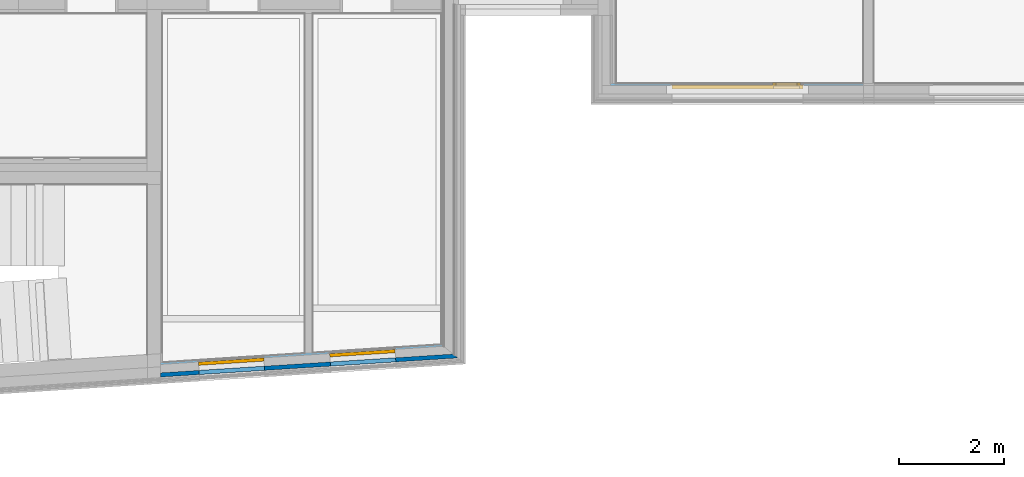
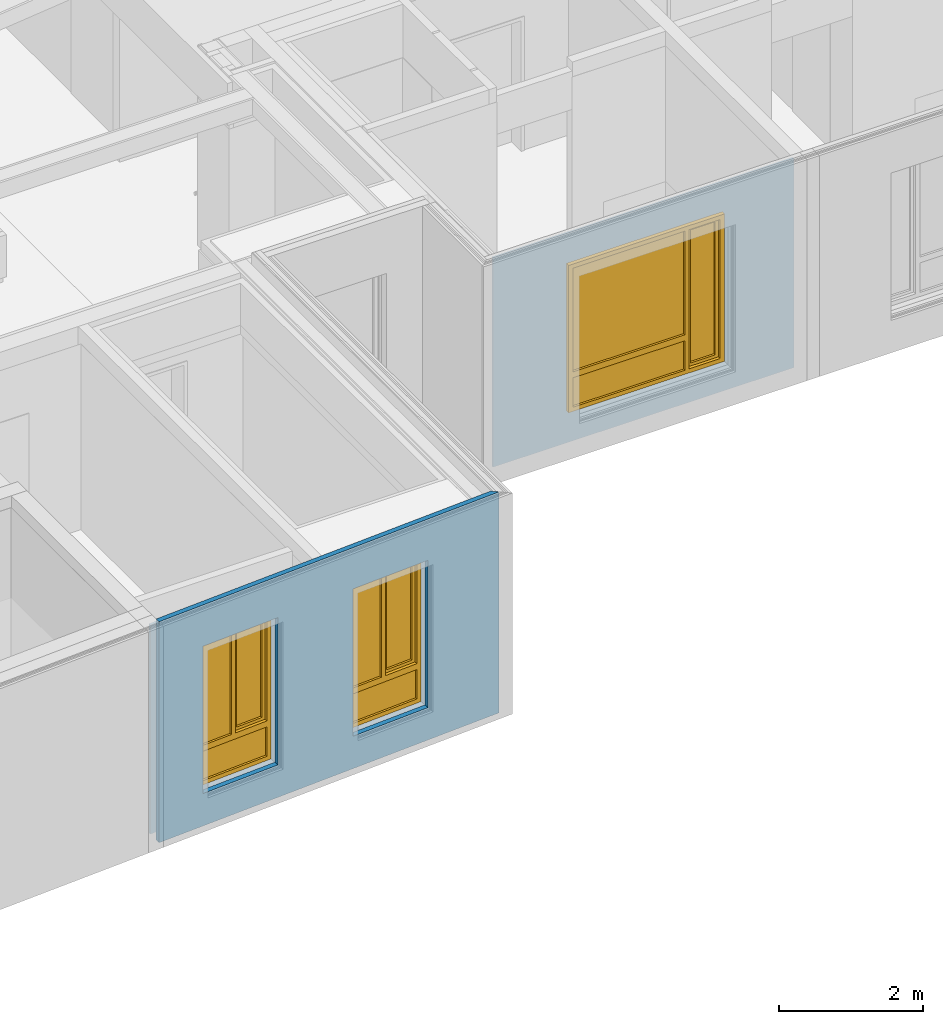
# One storey, part 111 of 222: 3 windows, 1 wall, 6 openings, plus 2 elements that do not belong to this part.
"""IFC4 building model written with IfcOpenShell, lengths in metres."""

from ifc_helpers import new_model, entity, si_unit, converted_unit, derived_unit, frame, frame_2d, origin, origin_with_axes, place, context, subcontext, project, spatial, polyline, rectangle, outline, extrude, closed_shell, open_shell, faceted_brep, surface_model, source, transform, mapped, material, element, fill, save


model = new_model("IFC4")

# Units and contexts
model_context = context("Model", 3, precision=1e-05, world=origin())
body_context = subcontext(model_context, "Body", "Model", "MODEL_VIEW")
ifc_project = project(units=[si_unit("LENGTHUNIT", "METRE"), si_unit("AREAUNIT", "SQUARE_METRE"), si_unit("VOLUMEUNIT", "CUBIC_METRE"), si_unit("MASSUNIT", "GRAM", prefix="KILO"), converted_unit("PLANEANGLEUNIT", "DEGREE", entity("IfcPlaneAngleMeasure", 0.0174532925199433), si_unit("PLANEANGLEUNIT", "RADIAN"), dimensions=[0, 0, 0, 0, 0, 0, 0]), derived_unit("THERMALTRANSMITTANCEUNIT", [(si_unit("POWERUNIT", "WATT"), 1), (si_unit("THERMODYNAMICTEMPERATUREUNIT", "KELVIN"), -1), (si_unit("LENGTHUNIT", "METRE"), -2)]), derived_unit("VOLUMETRICFLOWRATEUNIT", [(si_unit("LENGTHUNIT", "METRE"), 3), (converted_unit("TIMEUNIT", "hour", entity("IfcTimeMeasure", 3600.0), si_unit("TIMEUNIT", "SECOND"), dimensions=[0, 0, 1, 0, 0, 0, 0]), -1), (si_unit("LENGTHUNIT", "METRE"), -1)])], contexts=[model_context])

# Site, building, storey
site_placement = place(None, origin())
site = spatial("IfcSite", under=ifc_project, at=site_placement, Name="Psychiatrie Neubau Wunstorf", CompositionType="ELEMENT")
building_placement = place(site_placement, origin())
building = spatial("IfcBuilding", under=site, at=building_placement, Name="Neubau H2 Stationsgebäude", CompositionType="ELEMENT")
storey_placement = place(building_placement, frame((0.0, 0.0, 3.6)))
storey = spatial("IfcBuildingStorey", under=building, at=storey_placement, Name="H2 Ebene +1", CompositionType="ELEMENT", Elevation=3.6)

# Wall, openings, windows
ifc_material_1 = material(Name="WA-LB")
wall_1_placement = place(storey_placement, frame((67.8525026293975, -6.14011802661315, 0.0), z_axis=(0.0, 0.0, 1.0), x_axis=(-0.997944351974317, -0.0640864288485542, 0.0)))
wall_1 = element("IfcWall", 1, at=wall_1_placement, inside=storey, material=ifc_material_1, context=body_context, shape_type="SweptSolid", body=[
    extrude(outline(polyline([(-5.36604679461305, -0.0359999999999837), (-0.00231186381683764, -0.0359999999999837), (0.0, 0.0), (-5.34222362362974, 0.0), (-5.40524242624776, 4.54050609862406e-05), (-5.36604679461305, -0.0359999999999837)])), frame((5.36604679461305, 0.0359999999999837, 0.0), z_axis=(0.0, 0.0, 1.0), x_axis=(1.0, 0.0, 0.0)), (0.0, 0.0, 1.0), 3.55),
])
opening_1_placement = place(wall_1_placement, frame((2.13623932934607, 0.0359999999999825, 0.55), z_axis=(1.64214321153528e-13, -1.0, 0.0), x_axis=(0.0, 0.0, 1.0)))
opening_1 = element("IfcOpeningElement", 2, at=opening_1_placement, cuts=wall_1, Name="Fensteröffnung", ObjectType="Opening", context=body_context, shape_type="SweptSolid", body=[
    extrude(outline(polyline([(2.5, 1.25000000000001), (2.5, 0.0), (0.0, 0.0), (0.0, 1.25000000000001), (2.5, 1.25000000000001)])), origin_with_axes(), (0.0, 0.0, 1.0), 0.0359999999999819),
])
opening_2_placement = place(wall_1_placement, frame((4.64270007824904, 0.0359999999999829, 0.55), z_axis=(-5.05274834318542e-14, -1.0, 0.0), x_axis=(0.0, 0.0, 1.0)))
opening_2 = element("IfcOpeningElement", 3, at=opening_2_placement, cuts=wall_1, Name="Fensteröffnung", ObjectType="Opening", context=body_context, shape_type="SweptSolid", body=[
    extrude(outline(polyline([(2.5, 1.24999999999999), (2.5, 0.0), (0.0, 0.0), (0.0, 1.24999999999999), (2.5, 1.24999999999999)])), origin_with_axes(), (0.0, 0.0, 1.0), 0.0359999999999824),
])
shared_shape_1 = source(origin_with_axes(), body_context, "Body", "SurfaceModel", [
    surface_model("IfcShellBasedSurfaceModel", [(0.0, 0.0, 2.5), (0.0699999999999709, 0.0, 2.5), (0.0699999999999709, 0.0, 0.0), (0.0, 0.0, 0.0), (0.0, 0.0699999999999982, 0.0), (0.0699999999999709, 0.0700000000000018, 0.0), (0.0699999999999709, 0.0700000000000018, 2.5), (0.0, 0.0699999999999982, 2.5)], [closed_shell([[[0, 1, 2, 3]], [[4, 5, 6, 7]], [[3, 4, 7, 0]], [[2, 5, 4, 3]], [[1, 6, 5, 2]], [[0, 7, 6, 1]]], orient=[[False], [False], [False], [False], [False], [False]])]),
    surface_model("IfcShellBasedSurfaceModel", [(1.17999999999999, 0.0, 2.5), (1.24999999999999, 0.0, 2.5), (1.24999999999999, 0.0, 0.0), (1.17999999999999, 0.0, 0.0), (1.17999999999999, 0.0700000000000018, 0.0), (1.24999999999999, 0.0699999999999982, 0.0), (1.24999999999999, 0.0699999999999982, 2.5), (1.17999999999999, 0.0700000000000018, 2.5)], [closed_shell([[[0, 1, 2, 3]], [[4, 5, 6, 7]], [[3, 4, 7, 0]], [[2, 5, 4, 3]], [[1, 6, 5, 2]], [[0, 7, 6, 1]]], orient=[[False], [False], [False], [False], [False], [False]])]),
    surface_model("IfcShellBasedSurfaceModel", [(0.0699999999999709, 0.0, 0.07), (1.17999999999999, 0.0, 0.07), (1.17999999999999, 0.0, 0.0), (0.0699999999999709, 0.0, 0.0), (0.0699999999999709, 0.0700000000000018, 0.0), (1.17999999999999, 0.0700000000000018, 0.0), (1.17999999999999, 0.0700000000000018, 0.07), (0.0699999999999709, 0.0700000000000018, 0.07)], [closed_shell([[[0, 1, 2, 3]], [[4, 5, 6, 7]], [[3, 4, 7, 0]], [[2, 5, 4, 3]], [[1, 6, 5, 2]], [[0, 7, 6, 1]]], orient=[[False], [False], [False], [False], [False], [False]])]),
    surface_model("IfcShellBasedSurfaceModel", [(0.0699999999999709, 0.0, 2.5), (1.17999999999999, 0.0, 2.5), (1.17999999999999, 0.0, 2.43), (0.0699999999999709, 0.0, 2.43), (0.0699999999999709, 0.0700000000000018, 2.43), (1.17999999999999, 0.0700000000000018, 2.43), (1.17999999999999, 0.0700000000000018, 2.5), (0.0699999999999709, 0.0700000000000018, 2.5)], [closed_shell([[[0, 1, 2, 3]], [[4, 5, 6, 7]], [[3, 4, 7, 0]], [[2, 5, 4, 3]], [[1, 6, 5, 2]], [[0, 7, 6, 1]]], orient=[[False], [False], [False], [False], [False], [False]])]),
    surface_model("IfcShellBasedSurfaceModel", [(0.0699999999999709, 0.0, 0.67), (1.17999999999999, 0.0, 0.67), (1.17999999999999, 0.0, 0.57), (0.0699999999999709, 0.0, 0.57), (0.0699999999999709, 0.0700000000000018, 0.57), (1.17999999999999, 0.0700000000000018, 0.57), (1.17999999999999, 0.0700000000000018, 0.67), (0.0699999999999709, 0.0700000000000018, 0.67)], [closed_shell([[[0, 1, 2, 3]], [[4, 5, 6, 7]], [[3, 4, 7, 0]], [[2, 5, 4, 3]], [[1, 6, 5, 2]], [[0, 7, 6, 1]]], orient=[[False], [False], [False], [False], [False], [False]])]),
    surface_model("IfcShellBasedSurfaceModel", [(0.0699999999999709, 0.0350000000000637, 0.07), (0.0699999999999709, 0.0350000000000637, 0.57), (1.17999999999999, 0.0350000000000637, 0.57), (1.17999999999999, 0.0350000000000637, 0.07)], [open_shell([[[0, 1, 2, 3]]], orient=[[False]])]),
    surface_model("IfcShellBasedSurfaceModel", [(0.59, 0.0, 2.43), (0.659999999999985, 0.0, 2.43), (0.659999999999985, 0.0, 0.67), (0.59, 0.0, 0.67), (0.59, 0.07, 0.67), (0.659999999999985, 0.07, 0.67), (0.659999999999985, 0.07, 2.43), (0.59, 0.0699999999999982, 2.43)], [closed_shell([[[0, 1, 2, 3]], [[4, 5, 6, 7]], [[3, 4, 7, 0]], [[2, 5, 4, 3]], [[1, 6, 5, 2]], [[0, 7, 6, 1]]], orient=[[False], [False], [False], [False], [False], [False]])]),
    surface_model("IfcShellBasedSurfaceModel", [(0.0499999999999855, -0.0499999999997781, 2.45), (0.119999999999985, -0.0499999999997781, 2.45), (0.119999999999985, -0.0499999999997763, 0.65), (0.0499999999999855, -0.0499999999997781, 0.65), (0.0499999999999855, 0.0200000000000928, 0.65), (0.119999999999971, 0.0200000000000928, 0.65), (0.119999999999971, 0.0200000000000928, 2.45), (0.0499999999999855, 0.0200000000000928, 2.45)], [closed_shell([[[0, 1, 2, 3]], [[4, 5, 6, 7]], [[3, 4, 7, 0]], [[2, 5, 4, 3]], [[1, 6, 5, 2]], [[0, 7, 6, 1]]], orient=[[False], [False], [False], [False], [False], [False]])]),
    surface_model("IfcShellBasedSurfaceModel", [(0.539999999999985, -0.0499999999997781, 2.45), (0.609999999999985, -0.0499999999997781, 2.45), (0.609999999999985, -0.0499999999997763, 0.65), (0.539999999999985, -0.0499999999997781, 0.65), (0.539999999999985, 0.0200000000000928, 0.65), (0.609999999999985, 0.0200000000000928, 0.65), (0.609999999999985, 0.0200000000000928, 2.45), (0.539999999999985, 0.0200000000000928, 2.45)], [closed_shell([[[0, 1, 2, 3]], [[4, 5, 6, 7]], [[3, 4, 7, 0]], [[2, 5, 4, 3]], [[1, 6, 5, 2]], [[0, 7, 6, 1]]], orient=[[False], [False], [False], [False], [False], [False]])]),
    surface_model("IfcShellBasedSurfaceModel", [(0.119999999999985, -0.0499999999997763, 0.72), (0.539999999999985, -0.0499999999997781, 0.72), (0.539999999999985, -0.0499999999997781, 0.65), (0.119999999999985, -0.0499999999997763, 0.65), (0.119999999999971, 0.0200000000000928, 0.65), (0.539999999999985, 0.0200000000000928, 0.65), (0.539999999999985, 0.0200000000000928, 0.72), (0.119999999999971, 0.0200000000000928, 0.72)], [closed_shell([[[0, 1, 2, 3]], [[4, 5, 6, 7]], [[3, 4, 7, 0]], [[2, 5, 4, 3]], [[1, 6, 5, 2]], [[0, 7, 6, 1]]], orient=[[False], [False], [False], [False], [False], [False]])]),
    surface_model("IfcShellBasedSurfaceModel", [(0.119999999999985, -0.0499999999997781, 2.45), (0.539999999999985, -0.0499999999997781, 2.45), (0.539999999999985, -0.0499999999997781, 2.38), (0.119999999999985, -0.0499999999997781, 2.38), (0.119999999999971, 0.0200000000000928, 2.38), (0.539999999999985, 0.0200000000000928, 2.38), (0.539999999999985, 0.0200000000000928, 2.45), (0.119999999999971, 0.0200000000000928, 2.45)], [closed_shell([[[0, 1, 2, 3]], [[4, 5, 6, 7]], [[3, 4, 7, 0]], [[2, 5, 4, 3]], [[1, 6, 5, 2]], [[0, 7, 6, 1]]], orient=[[False], [False], [False], [False], [False], [False]])]),
    surface_model("IfcShellBasedSurfaceModel", [(0.659999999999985, 0.0350000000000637, 0.67), (0.659999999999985, 0.0350000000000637, 2.43), (1.17999999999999, 0.0350000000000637, 2.43), (1.17999999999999, 0.0350000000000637, 0.67)], [open_shell([[[0, 1, 2, 3]]], orient=[[False]])]),
    surface_model("IfcShellBasedSurfaceModel", [(0.119999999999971, -0.0149999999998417, 0.72), (0.119999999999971, -0.0149999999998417, 2.38), (0.539999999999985, -0.0149999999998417, 2.38), (0.539999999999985, -0.0149999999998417, 0.72)], [open_shell([[[0, 1, 2, 3]]], orient=[[False]])]),
])
window_1_placement = place(opening_1_placement, frame((0.0, 1.25, 0.00599999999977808), z_axis=(1.0, 0.0, 0.0), x_axis=(0.0, -1.0, 1.66214264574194e-13)))
window_1 = element("IfcWindow", 4, at=window_1_placement, inside=storey, Name="Fenster", OverallHeight=2.5, OverallWidth=1.25, PartitioningType="USERDEFINED", PredefinedType="WINDOW", context=body_context, shape_type="MappedRepresentation", body=[
    mapped(shared_shape_1, transform((0.0, 0.0, 0.0), x_axis=(1.0, 0.0, 0.0), y_axis=(0.0, 1.0, 0.0), z_axis=(0.0, 0.0, 1.0), scale=1.0)),
])
fill(opening_1, window_1)
shared_shape_2 = source(origin_with_axes(), body_context, "Body", "SurfaceModel", [
    surface_model("IfcShellBasedSurfaceModel", [(0.0, 0.0, 2.5), (0.0699999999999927, 0.0, 2.5), (0.0699999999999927, 0.0, 0.0), (0.0, 0.0, 0.0), (0.0, 0.0700000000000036, 0.0), (0.0699999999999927, 0.0700000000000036, 0.0), (0.0699999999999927, 0.0700000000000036, 2.5), (0.0, 0.0700000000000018, 2.5)], [closed_shell([[[0, 1, 2, 3]], [[4, 5, 6, 7]], [[3, 4, 7, 0]], [[2, 5, 4, 3]], [[1, 6, 5, 2]], [[0, 7, 6, 1]]], orient=[[False], [False], [False], [False], [False], [False]])]),
    surface_model("IfcShellBasedSurfaceModel", [(1.17999999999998, 0.0, 2.5), (1.24999999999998, 0.0, 2.5), (1.24999999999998, 0.0, 0.0), (1.17999999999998, 0.0, 0.0), (1.17999999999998, 0.0700000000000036, 0.0), (1.24999999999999, 0.0700000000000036, 0.0), (1.24999999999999, 0.0700000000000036, 2.5), (1.17999999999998, 0.0700000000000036, 2.5)], [closed_shell([[[0, 1, 2, 3]], [[4, 5, 6, 7]], [[3, 4, 7, 0]], [[2, 5, 4, 3]], [[1, 6, 5, 2]], [[0, 7, 6, 1]]], orient=[[False], [False], [False], [False], [False], [False]])]),
    surface_model("IfcShellBasedSurfaceModel", [(0.0699999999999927, 0.0, 0.07), (1.17999999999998, 0.0, 0.07), (1.17999999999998, 0.0, 0.0), (0.0699999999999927, 0.0, 0.0), (0.0699999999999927, 0.0700000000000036, 0.0), (1.17999999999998, 0.0700000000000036, 0.0), (1.17999999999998, 0.0700000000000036, 0.07), (0.0699999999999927, 0.0700000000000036, 0.07)], [closed_shell([[[0, 1, 2, 3]], [[4, 5, 6, 7]], [[3, 4, 7, 0]], [[2, 5, 4, 3]], [[1, 6, 5, 2]], [[0, 7, 6, 1]]], orient=[[False], [False], [False], [False], [False], [False]])]),
    surface_model("IfcShellBasedSurfaceModel", [(0.0699999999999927, 0.0, 2.5), (1.17999999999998, 0.0, 2.5), (1.17999999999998, 0.0, 2.43), (0.0699999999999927, 0.0, 2.43), (0.0699999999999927, 0.0700000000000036, 2.43), (1.17999999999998, 0.0700000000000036, 2.43), (1.17999999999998, 0.0700000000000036, 2.5), (0.0699999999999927, 0.0700000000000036, 2.5)], [closed_shell([[[0, 1, 2, 3]], [[4, 5, 6, 7]], [[3, 4, 7, 0]], [[2, 5, 4, 3]], [[1, 6, 5, 2]], [[0, 7, 6, 1]]], orient=[[False], [False], [False], [False], [False], [False]])]),
    surface_model("IfcShellBasedSurfaceModel", [(0.0699999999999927, 0.0, 0.67), (1.17999999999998, 0.0, 0.67), (1.17999999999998, 0.0, 0.57), (0.0699999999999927, 0.0, 0.57), (0.0699999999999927, 0.0700000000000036, 0.57), (1.17999999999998, 0.0700000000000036, 0.57), (1.17999999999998, 0.0700000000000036, 0.67), (0.0699999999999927, 0.0700000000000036, 0.67)], [closed_shell([[[0, 1, 2, 3]], [[4, 5, 6, 7]], [[3, 4, 7, 0]], [[2, 5, 4, 3]], [[1, 6, 5, 2]], [[0, 7, 6, 1]]], orient=[[False], [False], [False], [False], [False], [False]])]),
    surface_model("IfcShellBasedSurfaceModel", [(0.0699999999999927, 0.0350000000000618, 0.07), (0.0699999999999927, 0.0350000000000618, 0.57), (1.17999999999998, 0.0350000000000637, 0.57), (1.17999999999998, 0.0350000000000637, 0.07)], [open_shell([[[0, 1, 2, 3]]], orient=[[False]])]),
    surface_model("IfcShellBasedSurfaceModel", [(0.589999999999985, 0.0, 2.43), (0.659999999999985, 0.0, 2.43), (0.659999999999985, 0.0, 0.67), (0.589999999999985, 0.0, 0.67), (0.589999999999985, 0.0700000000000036, 0.67), (0.659999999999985, 0.0700000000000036, 0.67), (0.659999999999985, 0.0700000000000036, 2.43), (0.589999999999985, 0.0700000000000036, 2.43)], [closed_shell([[[0, 1, 2, 3]], [[4, 5, 6, 7]], [[3, 4, 7, 0]], [[2, 5, 4, 3]], [[1, 6, 5, 2]], [[0, 7, 6, 1]]], orient=[[False], [False], [False], [False], [False], [False]])]),
    surface_model("IfcShellBasedSurfaceModel", [(0.0499999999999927, -0.0499999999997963, 2.45), (0.119999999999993, -0.0499999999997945, 2.45), (0.119999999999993, -0.0499999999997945, 0.65), (0.0499999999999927, -0.0499999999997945, 0.65), (0.0499999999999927, 0.0200000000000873, 0.65), (0.119999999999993, 0.0200000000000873, 0.65), (0.119999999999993, 0.0200000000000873, 2.45), (0.0499999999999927, 0.0200000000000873, 2.45)], [closed_shell([[[0, 1, 2, 3]], [[4, 5, 6, 7]], [[3, 4, 7, 0]], [[2, 5, 4, 3]], [[1, 6, 5, 2]], [[0, 7, 6, 1]]], orient=[[False], [False], [False], [False], [False], [False]])]),
    surface_model("IfcShellBasedSurfaceModel", [(0.539999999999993, -0.0499999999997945, 2.45), (0.609999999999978, -0.0499999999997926, 2.45), (0.609999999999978, -0.0499999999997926, 0.65), (0.539999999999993, -0.0499999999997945, 0.65), (0.539999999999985, 0.0200000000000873, 0.65), (0.609999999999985, 0.0200000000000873, 0.65), (0.609999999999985, 0.0200000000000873, 2.45), (0.539999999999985, 0.0200000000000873, 2.45)], [closed_shell([[[0, 1, 2, 3]], [[4, 5, 6, 7]], [[3, 4, 7, 0]], [[2, 5, 4, 3]], [[1, 6, 5, 2]], [[0, 7, 6, 1]]], orient=[[False], [False], [False], [False], [False], [False]])]),
    surface_model("IfcShellBasedSurfaceModel", [(0.119999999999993, -0.0499999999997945, 0.72), (0.539999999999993, -0.0499999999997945, 0.72), (0.539999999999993, -0.0499999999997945, 0.65), (0.119999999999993, -0.0499999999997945, 0.65), (0.119999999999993, 0.0200000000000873, 0.65), (0.539999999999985, 0.0200000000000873, 0.65), (0.539999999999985, 0.0200000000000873, 0.72), (0.119999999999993, 0.0200000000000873, 0.72)], [closed_shell([[[0, 1, 2, 3]], [[4, 5, 6, 7]], [[3, 4, 7, 0]], [[2, 5, 4, 3]], [[1, 6, 5, 2]], [[0, 7, 6, 1]]], orient=[[False], [False], [False], [False], [False], [False]])]),
    surface_model("IfcShellBasedSurfaceModel", [(0.119999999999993, -0.0499999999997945, 2.45), (0.539999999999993, -0.0499999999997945, 2.45), (0.539999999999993, -0.0499999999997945, 2.38), (0.119999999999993, -0.0499999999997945, 2.38), (0.119999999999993, 0.0200000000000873, 2.38), (0.539999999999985, 0.0200000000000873, 2.38), (0.539999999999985, 0.0200000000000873, 2.45), (0.119999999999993, 0.0200000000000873, 2.45)], [closed_shell([[[0, 1, 2, 3]], [[4, 5, 6, 7]], [[3, 4, 7, 0]], [[2, 5, 4, 3]], [[1, 6, 5, 2]], [[0, 7, 6, 1]]], orient=[[False], [False], [False], [False], [False], [False]])]),
    surface_model("IfcShellBasedSurfaceModel", [(0.659999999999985, 0.0350000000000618, 0.67), (0.659999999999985, 0.0350000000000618, 2.43), (1.17999999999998, 0.0350000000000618, 2.43), (1.17999999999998, 0.0350000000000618, 0.67)], [open_shell([[[0, 1, 2, 3]]], orient=[[False]])]),
    surface_model("IfcShellBasedSurfaceModel", [(0.119999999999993, -0.0149999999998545, 0.72), (0.119999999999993, -0.0149999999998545, 2.38), (0.539999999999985, -0.0149999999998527, 2.38), (0.539999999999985, -0.0149999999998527, 0.72)], [open_shell([[[0, 1, 2, 3]]], orient=[[False]])]),
])
window_2_placement = place(opening_2_placement, frame((0.0, 1.24999999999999, 0.00600000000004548), z_axis=(1.0, 0.0, 0.0), x_axis=(0.0, -1.0, -4.88914464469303e-14)))
window_2 = element("IfcWindow", 5, at=window_2_placement, inside=storey, Name="Fenster", OverallHeight=2.5, OverallWidth=1.25, PartitioningType="USERDEFINED", PredefinedType="WINDOW", context=body_context, shape_type="MappedRepresentation", body=[
    mapped(shared_shape_2, transform((0.0, 0.0, 0.0), x_axis=(1.0, 0.0, 0.0), y_axis=(0.0, 1.0, 0.0), z_axis=(0.0, 0.0, 1.0), scale=1.0)),
])
fill(opening_2, window_2)

# Wall, openings
ifc_material_2 = material(Name="WA-DL")
wall_2_placement = place(storey_placement, frame((62.499793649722, -6.76042917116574, 0.0)))
wall_2 = element("IfcWall", 6, at=wall_2_placement, inside=storey, material=ifc_material_2, context=body_context, shape_type="Brep", body=[
    faceted_brep([(0.732113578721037, 0.127180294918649, 0.55), (1.97954398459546, 0.207288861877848, 0.55), (1.98467089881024, 0.127453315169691, 0.55), (0.737240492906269, 0.0473447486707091, 0.55), (0.737240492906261, 0.0473447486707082, 3.05), (1.98467089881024, 0.127453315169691, 3.05), (1.97954398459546, 0.207288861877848, 3.05), (0.732113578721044, 0.127180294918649, 3.05), (3.23342185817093, 0.287811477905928, 0.55), (4.48085226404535, 0.367920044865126, 0.55), (4.48597917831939, 0.288084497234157, 0.55), (3.23854877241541, 0.207975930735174, 0.55), (3.23854877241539, 0.207975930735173, 3.05), (4.48597917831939, 0.288084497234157, 3.05), (4.48085226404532, 0.367920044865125, 3.05), (3.23342185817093, 0.287811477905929, 3.05), (5.66989842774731, 0.36411444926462, 0.0), (0.0, 0.0, 0.0), (0.0, 0.0, 3.75), (5.66989842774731, 0.36411444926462, 3.75), (0.0, 0.0801647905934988, 0.0), (0.0, 0.0801647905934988, 3.75), (5.57795869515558, 0.438374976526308, 0.0), (5.57795869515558, 0.438374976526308, 3.75)], [[[0, 1, 2, 3]], [[4, 5, 6, 7]], [[7, 0, 3, 4]], [[5, 2, 1, 6]], [[8, 9, 10, 11]], [[12, 13, 14, 15]], [[15, 8, 11, 12]], [[13, 10, 9, 14]], [[16, 17, 18, 19], [2, 5, 4, 3], [10, 13, 12, 11]], [[17, 20, 21, 18]], [[20, 22, 23, 21], [0, 7, 6, 1], [8, 15, 14, 9]], [[22, 16, 19, 23]], [[23, 19, 18, 21]], [[16, 22, 20, 17]]], orient=[[False], [False], [False], [False], [False], [False], [False], [False], [False, False, False], [False], [False, False, False], [False], [False], [False]]),
])
opening_3_placement = place(wall_2_placement, frame((0.737240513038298, 0.0473444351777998, 0.55), z_axis=(-0.0640864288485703, 0.997944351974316, 0.0), x_axis=(0.0, 0.0, 1.0)))
element("IfcOpeningElement", 7, at=opening_3_placement, cuts=wall_2, Name="Fensteröffnung", ObjectType="Opening", context=body_context, shape_type="SweptSolid", body=[
    extrude(outline(polyline([(2.5, 1.24999999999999), (2.5, 0.0), (0.0, 0.0), (0.0, 1.24999999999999), (2.5, 1.24999999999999)])), origin_with_axes(), (0.0, 0.0, 1.0), 0.0800003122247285),
])
opening_4_placement = place(wall_2_placement, frame((3.23854886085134, 0.207974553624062, 0.55), z_axis=(-0.0640864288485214, 0.997944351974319, 0.0), x_axis=(0.0, 0.0, 1.0)))
element("IfcOpeningElement", 8, at=opening_4_placement, cuts=wall_2, Name="Fensteröffnung", ObjectType="Opening", context=body_context, shape_type="SweptSolid", body=[
    extrude(outline(polyline([(2.5, 1.25000000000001), (2.5, 0.0), (0.0, 0.0), (0.0, 1.25000000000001), (2.5, 1.25000000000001)])), origin_with_axes(), (0.0, 0.0, 1.0), 0.0800013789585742),
])
opening_5_placement = place(wall_2_placement, frame((3.23342194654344, 0.287810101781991, 0.55), z_axis=(-0.0640864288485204, 0.997944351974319, 0.0), x_axis=(0.0, 0.0, 1.0)))
element("IfcOpeningElement", 9, at=opening_5_placement, cuts=wall_2, Name="Fensteröffnung", ObjectType="Opening", context=body_context, shape_type="SweptSolid", body=[
    extrude(outline(polyline([(2.5, 1.25000000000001), (2.5, 0.0), (0.0, 0.0), (0.0, 1.25000000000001), (2.5, 1.25000000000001)])), origin_with_axes(), (0.0, 0.0, 1.0), 0.160000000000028),
])

# Wall, opening, window
ifc_material_3 = material(Name="WA-LB")
wall_3_placement = place(storey_placement, frame((75.9, -1.16399999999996, 0.0), z_axis=(0.0, 0.0, 1.0), x_axis=(-1.0, -1.50797048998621e-15, 0.0)))
wall_3 = element("IfcWall", 10, at=wall_3_placement, inside=storey, material=ifc_material_3, context=body_context, shape_type="SweptSolid", body=[
    extrude(rectangle(XDim=4.82499999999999, YDim=0.036, at=frame_2d((2.41249999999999, 0.018), x_axis=(1.0, 0.0))), origin_with_axes(), (0.0, 0.0, 1.0), 3.55),
])
opening_6_placement = place(wall_3_placement, frame((1.14999995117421, 0.0, 0.55), z_axis=(0.0, 1.0, 0.0), x_axis=(0.0, 0.0, 1.0)))
opening_6 = element("IfcOpeningElement", 11, at=opening_6_placement, cuts=wall_3, Name="Fensteröffnung", ObjectType="Opening", context=body_context, shape_type="SweptSolid", body=[
    extrude(outline(polyline([(2.5, 2.5), (2.5, 0.0), (0.0, 0.0), (0.0, 2.5), (2.5, 2.5)])), origin_with_axes(), (0.0, 0.0, 1.0), 0.036),
])
shared_shape_3 = source(origin_with_axes(), body_context, "Body", "SurfaceModel", [
    surface_model("IfcShellBasedSurfaceModel", [(0.0, 0.0, 2.5), (0.07, 0.0, 2.5), (0.07, 0.0, 0.0), (0.0, 0.0, 0.0), (0.0, 0.0699999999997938, 0.0), (0.07, 0.0699999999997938, 0.0), (0.07, 0.0699999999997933, 2.5), (0.0, 0.0699999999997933, 2.5)], [closed_shell([[[0, 1, 2, 3]], [[4, 5, 6, 7]], [[3, 4, 7, 0]], [[2, 5, 4, 3]], [[1, 6, 5, 2]], [[0, 7, 6, 1]]], orient=[[False], [False], [False], [False], [False], [False]])]),
    surface_model("IfcShellBasedSurfaceModel", [(2.43, 0.0, 2.5), (2.5, 0.0, 2.5), (2.5, 0.0, 0.0), (2.43, 0.0, 0.0), (2.43, 0.0699999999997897, 0.0), (2.5, 0.0699999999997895, 0.0), (2.5, 0.0699999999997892, 2.5), (2.43, 0.0699999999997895, 2.5)], [closed_shell([[[0, 1, 2, 3]], [[4, 5, 6, 7]], [[3, 4, 7, 0]], [[2, 5, 4, 3]], [[1, 6, 5, 2]], [[0, 7, 6, 1]]], orient=[[False], [False], [False], [False], [False], [False]])]),
    surface_model("IfcShellBasedSurfaceModel", [(0.07, 0.0, 0.07), (2.43, 0.0, 0.07), (2.43, 0.0, 0.0), (0.07, 0.0, 0.0), (0.07, 0.0699999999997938, 0.0), (2.43, 0.0699999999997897, 0.0), (2.43, 0.0699999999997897, 0.07), (0.07, 0.0699999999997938, 0.07)], [closed_shell([[[0, 1, 2, 3]], [[4, 5, 6, 7]], [[3, 4, 7, 0]], [[2, 5, 4, 3]], [[1, 6, 5, 2]], [[0, 7, 6, 1]]], orient=[[False], [False], [False], [False], [False], [False]])]),
    surface_model("IfcShellBasedSurfaceModel", [(0.07, 0.0, 2.5), (2.43, 0.0, 2.5), (2.43, 0.0, 2.43), (0.07, 0.0, 2.43), (0.07, 0.0699999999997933, 2.43), (2.43, 0.0699999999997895, 2.43), (2.43, 0.0699999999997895, 2.5), (0.07, 0.0699999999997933, 2.5)], [closed_shell([[[0, 1, 2, 3]], [[4, 5, 6, 7]], [[3, 4, 7, 0]], [[2, 5, 4, 3]], [[1, 6, 5, 2]], [[0, 7, 6, 1]]], orient=[[False], [False], [False], [False], [False], [False]])]),
    surface_model("IfcShellBasedSurfaceModel", [(0.565714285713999, 0.0, 2.43), (0.635714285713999, 0.0, 2.43), (0.635714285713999, 0.0, 0.07), (0.565714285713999, 0.0, 0.07), (0.565714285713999, 0.0699999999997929, 0.07), (0.635714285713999, 0.0699999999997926, 0.07), (0.635714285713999, 0.0699999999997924, 2.43), (0.565714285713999, 0.0699999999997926, 2.43)], [closed_shell([[[0, 1, 2, 3]], [[4, 5, 6, 7]], [[3, 4, 7, 0]], [[2, 5, 4, 3]], [[1, 6, 5, 2]], [[0, 7, 6, 1]]], orient=[[False], [False], [False], [False], [False], [False]])]),
    surface_model("IfcShellBasedSurfaceModel", [(0.05, -0.0500000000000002, 2.45), (0.12, -0.0500000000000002, 2.45), (0.12, -0.05, 0.05), (0.05, -0.05, 0.05), (0.05, 0.0199999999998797, 0.05), (0.12, 0.0199999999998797, 0.05), (0.12, 0.0199999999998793, 2.45), (0.05, 0.0199999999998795, 2.45)], [closed_shell([[[0, 1, 2, 3]], [[4, 5, 6, 7]], [[3, 4, 7, 0]], [[2, 5, 4, 3]], [[1, 6, 5, 2]], [[0, 7, 6, 1]]], orient=[[False], [False], [False], [False], [False], [False]])]),
    surface_model("IfcShellBasedSurfaceModel", [(0.515714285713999, -0.0500000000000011, 2.45), (0.585714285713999, -0.0500000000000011, 2.45), (0.585714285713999, -0.0500000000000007, 0.05), (0.515714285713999, -0.0500000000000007, 0.05), (0.515714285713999, 0.0199999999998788, 0.05), (0.585714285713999, 0.0199999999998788, 0.05), (0.585714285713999, 0.0199999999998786, 2.45), (0.515714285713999, 0.0199999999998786, 2.45)], [closed_shell([[[0, 1, 2, 3]], [[4, 5, 6, 7]], [[3, 4, 7, 0]], [[2, 5, 4, 3]], [[1, 6, 5, 2]], [[0, 7, 6, 1]]], orient=[[False], [False], [False], [False], [False], [False]])]),
    surface_model("IfcShellBasedSurfaceModel", [(0.12, -0.05, 0.12), (0.515714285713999, -0.0500000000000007, 0.12), (0.515714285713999, -0.0500000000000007, 0.05), (0.12, -0.05, 0.05), (0.12, 0.0199999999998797, 0.05), (0.515714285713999, 0.0199999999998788, 0.05), (0.515714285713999, 0.0199999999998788, 0.12), (0.12, 0.0199999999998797, 0.12)], [closed_shell([[[0, 1, 2, 3]], [[4, 5, 6, 7]], [[3, 4, 7, 0]], [[2, 5, 4, 3]], [[1, 6, 5, 2]], [[0, 7, 6, 1]]], orient=[[False], [False], [False], [False], [False], [False]])]),
    surface_model("IfcShellBasedSurfaceModel", [(0.12, -0.0500000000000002, 2.45), (0.515714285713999, -0.0500000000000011, 2.45), (0.515714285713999, -0.0500000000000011, 2.38), (0.12, -0.0500000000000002, 2.38), (0.12, 0.0199999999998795, 2.38), (0.515714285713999, 0.0199999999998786, 2.38), (0.515714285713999, 0.0199999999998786, 2.45), (0.12, 0.0199999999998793, 2.45)], [closed_shell([[[0, 1, 2, 3]], [[4, 5, 6, 7]], [[3, 4, 7, 0]], [[2, 5, 4, 3]], [[1, 6, 5, 2]], [[0, 7, 6, 1]]], orient=[[False], [False], [False], [False], [False], [False]])]),
    surface_model("IfcShellBasedSurfaceModel", [(0.635714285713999, 0.0, 0.67), (2.43, 0.0, 0.67), (2.43, 0.0, 0.57), (0.635714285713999, 0.0, 0.57), (0.635714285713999, 0.0699999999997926, 0.57), (2.43, 0.0699999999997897, 0.57), (2.43, 0.0699999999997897, 0.67), (0.635714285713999, 0.0699999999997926, 0.67)], [closed_shell([[[0, 1, 2, 3]], [[4, 5, 6, 7]], [[3, 4, 7, 0]], [[2, 5, 4, 3]], [[1, 6, 5, 2]], [[0, 7, 6, 1]]], orient=[[False], [False], [False], [False], [False], [False]])]),
    surface_model("IfcShellBasedSurfaceModel", [(0.12, -0.0150000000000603, 0.12), (0.12, -0.0150000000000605, 2.38), (0.515714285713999, -0.0150000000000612, 2.38), (0.515714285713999, -0.0150000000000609, 0.12)], [open_shell([[[0, 1, 2, 3]]], orient=[[False]])]),
    surface_model("IfcShellBasedSurfaceModel", [(0.635714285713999, 0.0349999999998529, 0.07), (0.635714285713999, 0.0349999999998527, 0.57), (2.43, 0.0349999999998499, 0.57), (2.43, 0.0349999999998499, 0.07)], [open_shell([[[0, 1, 2, 3]]], orient=[[False]])]),
    surface_model("IfcShellBasedSurfaceModel", [(0.635714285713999, 0.0349999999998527, 0.67), (0.635714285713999, 0.0349999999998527, 2.43), (2.43, 0.0349999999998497, 2.43), (2.43, 0.0349999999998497, 0.67)], [open_shell([[[0, 1, 2, 3]]], orient=[[False]])]),
])
window_3_placement = place(opening_6_placement, frame((0.0, 0.0, 0.03), z_axis=(1.0, 0.0, 0.0), x_axis=(0.0, 1.0, -5.27789671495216e-17)))
window_3 = element("IfcWindow", 12, at=window_3_placement, inside=storey, Name="Fenster", OverallHeight=2.5, OverallWidth=2.5, PartitioningType="USERDEFINED", PredefinedType="WINDOW", context=body_context, shape_type="MappedRepresentation", body=[
    mapped(shared_shape_3, transform((0.0, 0.0, 0.0), x_axis=(1.0, 0.0, 0.0), y_axis=(0.0, 1.0, 0.0), z_axis=(0.0, 0.0, 1.0), scale=1.0)),
])
fill(opening_6, window_3)

save(model, "model.ifc")
